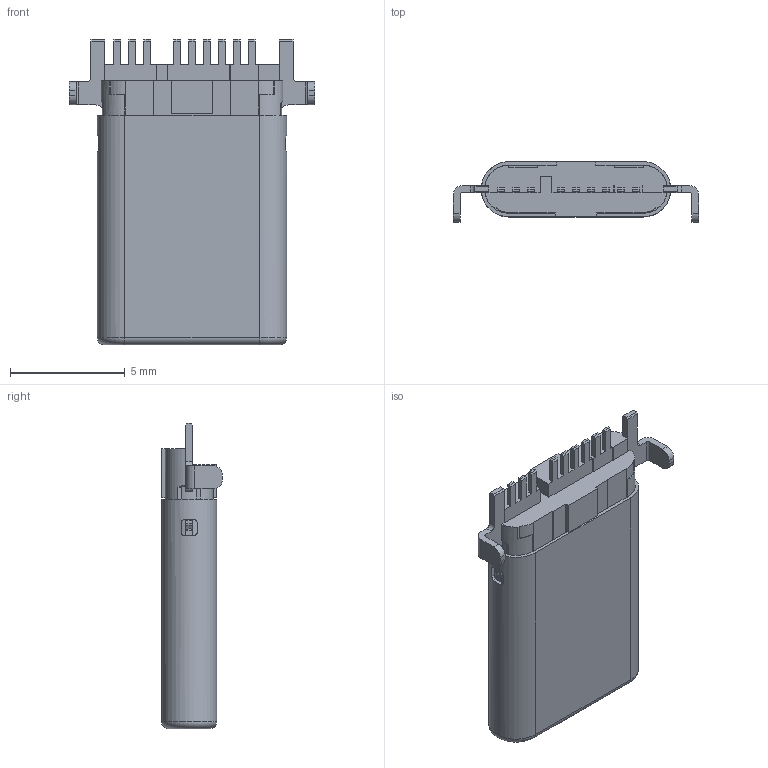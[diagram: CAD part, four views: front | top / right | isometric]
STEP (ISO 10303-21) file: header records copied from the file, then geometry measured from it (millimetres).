
FILE_DESCRIPTION((''),'2;1');
FILE_NAME('2_ASM','2022-06-08T19:09:50',('Administrator'),(''),'CREO PARAMETRIC BY PTC INC, 2021063','CREO PARAMETRIC BY PTC INC, 2021063','');
FILE_SCHEMA(('CONFIG_CONTROL_DESIGN'));
Length unit declared in the file: millimetre
Products named in the file (6): TYPE-C-8-4P_ASM_1_1_1_1_1; TYPE-C-8-4P_ASM_1_2_1_1_1; TYPE-C-8-4P_ASM_1_ASM_1_ASM_1_1_ASM; STD-TYPE-C-8-4P_ASM_ASM_1_ASM_2_ASM; TYPE_C_9PIN_8_40001_ASM_1_1_ASM; 2_ASM
Assembly tree (5 placements, depth 5):
  2_ASM
    TYPE_C_9PIN_8_40001_ASM_1_1_ASM
      STD-TYPE-C-8-4P_ASM_ASM_1_ASM_2_ASM
        TYPE-C-8-4P_ASM_1_ASM_1_ASM_1_1_ASM
          TYPE-C-8-4P_ASM_1_1_1_1_1
          TYPE-C-8-4P_ASM_1_2_1_1_1
Bounding box: 10.7 x 2.65 x 13.3 mm (x, y, z)
Volume: 191.8 mm3; surface area: 808.3 mm2
Topology: 2 solids, 4 shells, 874 faces, 2544 edges, 1687 vertices
Faces by surface type: plane 745, cylinder 121, torus 4, cone 3, extrusion 1
Entity records: 29090 total; most frequent: CARTESIAN_POINT 5663, ORIENTED_EDGE 5088, DIRECTION 4492, EDGE_CURVE 2544, VECTOR 2176, LINE 2175, VERTEX_POINT 1687, AXIS2_PLACEMENT_3D 1158
